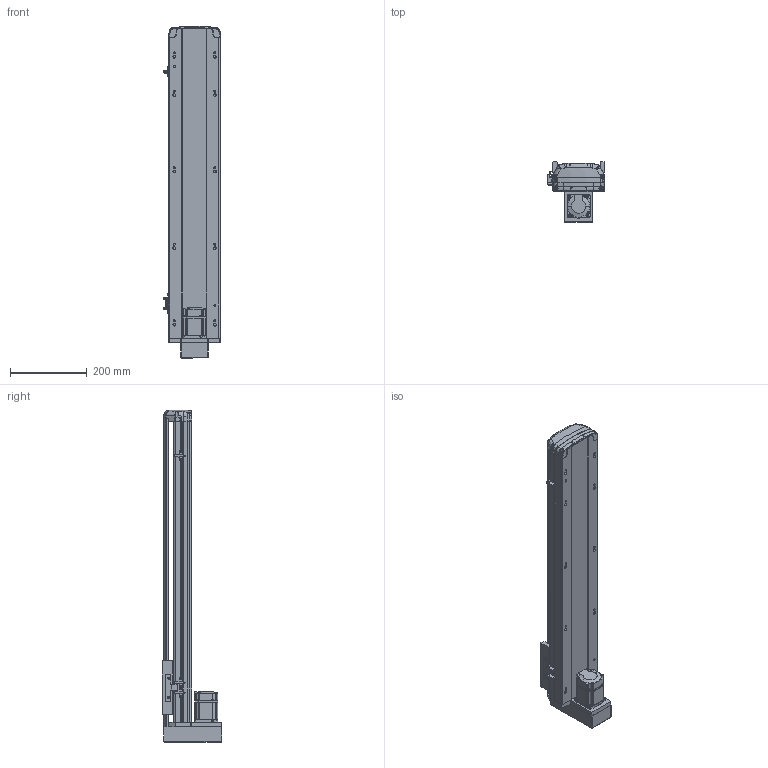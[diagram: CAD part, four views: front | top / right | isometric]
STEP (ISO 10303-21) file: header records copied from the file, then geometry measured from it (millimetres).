
FILE_DESCRIPTION (( 'STEP AP214' ), '1' );
FILE_NAME ('RTH14-XX-600-M-M20-C4.STEP', '2025-10-25T02:49:52', ( 'Microsoft' ), ( 'Microsoft' ), 'SwSTEP 2.0', 'SolidWorks 2018', '' );
FILE_SCHEMA (( 'AUTOMOTIVE_DESIGN' ));
Length unit declared in the file: millimetre
Products named in the file (10): RTH14-XX-600-M-M20-C4; N_RTH13-M-018裔赽^RTH14-XX-XX-M-M20-C4; N_RTH14-M-007P奻裔^RTH14-XX-XX-M-M20-C4; N_RTH14-GY-001P^RTH14-XX-XX-M-M20-C4; N_RTH14-R-004-SFSR16賑釱^RTH14-XX-XX-M-M20-C4; N_RTH13-M-008萇儂啣狟殏^RTH14-XX-XX-M-M20-C4; N_RTH14-M-011P菁釱^RTH14-XX-XX-M-M20-C4; N_RTH13-L-012感应片（外置）^RTH14-XX-XX-M-M20-C4; N_MSMD022P1AA_200W^RTH14-XX-XX-M-M20-C4; N_OMRON EE-SX672 传感器^RTH14-XX-XX-M-M20-C4
Assembly tree (11 placements, depth 2):
  RTH14-XX-600-M-M20-C4
    N_RTH14-M-011P菁釱^RTH14-XX-XX-M-M20-C4
    N_RTH14-M-007P奻裔^RTH14-XX-XX-M-M20-C4
    N_MSMD022P1AA_200W^RTH14-XX-XX-M-M20-C4
    N_RTH13-M-008萇儂啣狟殏^RTH14-XX-XX-M-M20-C4
    N_RTH13-M-018裔赽^RTH14-XX-XX-M-M20-C4
    N_RTH13-L-012感应片（外置）^RTH14-XX-XX-M-M20-C4
    N_OMRON EE-SX672 传感器^RTH14-XX-XX-M-M20-C4  x3
    N_RTH14-R-004-SFSR16賑釱^RTH14-XX-XX-M-M20-C4
    N_RTH14-GY-001P^RTH14-XX-XX-M-M20-C4
Bounding box: 148.5 x 156.5 x 867.37 mm (x, y, z)
Volume: 3919008.8 mm3; surface area: 905478.4 mm2
Topology: 11 solids, 11 shells, 1875 faces, 5240 edges, 3432 vertices
Faces by surface type: plane 995, cylinder 486, bspline 345, cone 45, torus 4
Entity records: 57214 total; most frequent: CARTESIAN_POINT 23039, ORIENTED_EDGE 7548, DIRECTION 6055, EDGE_CURVE 3774, VERTEX_POINT 2468, VECTOR 2173, LINE 2173, AXIS2_PLACEMENT_3D 1941
